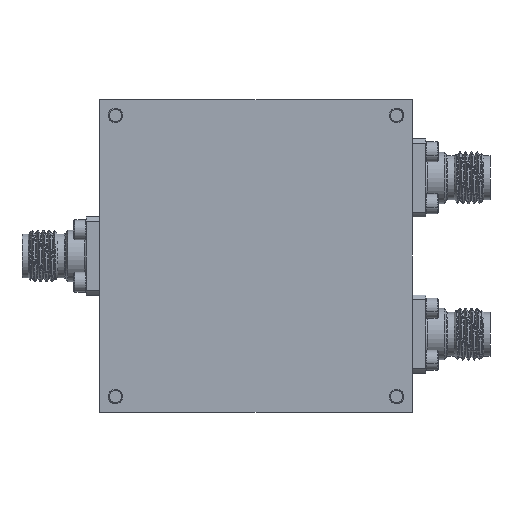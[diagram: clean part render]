
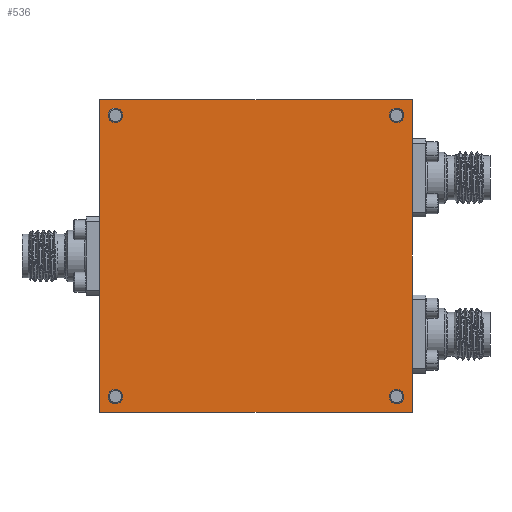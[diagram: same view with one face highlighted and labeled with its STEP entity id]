
A CAD part, front view. The second image highlights one B-rep face of the part: STEP entity #536.
In plain terms, the highlighted planar face has unit normal (0, -1, 0).
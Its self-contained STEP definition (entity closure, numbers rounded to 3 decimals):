
#47 = EDGE_CURVE ( 'NONE', #12756, #2568, #6468, .T. ) ;
#344 = EDGE_CURVE ( 'NONE', #2568, #12756, #10838, .T. ) ;
#358 = CARTESIAN_POINT ( 'NONE',  ( 19.05, 0., -19.05 ) ) ;
#390 = VERTEX_POINT ( 'NONE', #14724 ) ;
#391 = LINE ( 'NONE', #2453, #9827 ) ;
#536 = ADVANCED_FACE ( 'NONE', ( #10258, #934, #6812, #1154, #13777 ), #5825, .F. ) ;
#694 = AXIS2_PLACEMENT_3D ( 'NONE', #6336, #9712, #11027 ) ;
#717 = CARTESIAN_POINT ( 'NONE',  ( 19.05, 0., 19.05 ) ) ;
#934 = FACE_BOUND ( 'NONE', #9268, .T. ) ;
#1154 = FACE_BOUND ( 'NONE', #3808, .T. ) ;
#1209 = CARTESIAN_POINT ( 'NONE',  ( -17.145, 0., 18.034 ) ) ;
#1407 = DIRECTION ( 'NONE',  ( 0., 1., 0. ) ) ;
#1448 = EDGE_CURVE ( 'NONE', #8359, #5713, #13403, .T. ) ;
#1464 = ORIENTED_EDGE ( 'NONE', *, *, #13345, .T. ) ;
#1650 = AXIS2_PLACEMENT_3D ( 'NONE', #13196, #3635, #2548 ) ;
#2162 = AXIS2_PLACEMENT_3D ( 'NONE', #7415, #12244, #4048 ) ;
#2453 = CARTESIAN_POINT ( 'NONE',  ( -19.05, 0., -19.05 ) ) ;
#2515 = ORIENTED_EDGE ( 'NONE', *, *, #1448, .T. ) ;
#2548 = DIRECTION ( 'NONE',  ( 0., 0., 1. ) ) ;
#2568 = VERTEX_POINT ( 'NONE', #7526 ) ;
#2781 = CARTESIAN_POINT ( 'NONE',  ( 17.145, 0., 17.145 ) ) ;
#2790 = CARTESIAN_POINT ( 'NONE',  ( -19.05, 0., 19.05 ) ) ;
#2821 = EDGE_CURVE ( 'NONE', #390, #5893, #4507, .T. ) ;
#3166 = DIRECTION ( 'NONE',  ( 0., 0., 1. ) ) ;
#3213 = ORIENTED_EDGE ( 'NONE', *, *, #344, .T. ) ;
#3357 = CIRCLE ( 'NONE', #13144, 0.889 ) ;
#3359 = EDGE_LOOP ( 'NONE', ( #9839, #1464 ) ) ;
#3516 = DIRECTION ( 'NONE',  ( 0., 0., 1. ) ) ;
#3635 = DIRECTION ( 'NONE',  ( 0., 1., 0. ) ) ;
#3671 = CARTESIAN_POINT ( 'NONE',  ( 17.145, 0., 17.145 ) ) ;
#3808 = EDGE_LOOP ( 'NONE', ( #7892, #13492 ) ) ;
#4048 = DIRECTION ( 'NONE',  ( 0., 0., 1. ) ) ;
#4325 = VECTOR ( 'NONE', #5856, 1000. ) ;
#4394 = CARTESIAN_POINT ( 'NONE',  ( 19.05, 0., -19.05 ) ) ;
#4445 = EDGE_CURVE ( 'NONE', #12241, #6593, #5082, .T. ) ;
#4507 = CIRCLE ( 'NONE', #14298, 0.889 ) ;
#4718 = EDGE_CURVE ( 'NONE', #5893, #390, #14764, .T. ) ;
#4839 = AXIS2_PLACEMENT_3D ( 'NONE', #12708, #8046, #3516 ) ;
#4931 = DIRECTION ( 'NONE',  ( -1., 0., 0. ) ) ;
#5082 = LINE ( 'NONE', #12117, #9641 ) ;
#5256 = EDGE_CURVE ( 'NONE', #9285, #8266, #12139, .T. ) ;
#5332 = DIRECTION ( 'NONE',  ( 1., 0., 0. ) ) ;
#5587 = EDGE_LOOP ( 'NONE', ( #3213, #9158 ) ) ;
#5713 = VERTEX_POINT ( 'NONE', #9316 ) ;
#5825 = PLANE ( 'NONE',  #4839 ) ;
#5856 = DIRECTION ( 'NONE',  ( 0., 0., -1. ) ) ;
#5893 = VERTEX_POINT ( 'NONE', #1209 ) ;
#6055 = EDGE_LOOP ( 'NONE', ( #11538, #13927, #13952, #14375 ) ) ;
#6117 = VERTEX_POINT ( 'NONE', #11064 ) ;
#6336 = CARTESIAN_POINT ( 'NONE',  ( 17.145, 0., -17.145 ) ) ;
#6468 = CIRCLE ( 'NONE', #11127, 0.889 ) ;
#6593 = VERTEX_POINT ( 'NONE', #12185 ) ;
#6798 = EDGE_CURVE ( 'NONE', #5713, #8359, #3357, .T. ) ;
#6812 = FACE_BOUND ( 'NONE', #5587, .T. ) ;
#6994 = EDGE_CURVE ( 'NONE', #8266, #12241, #8153, .T. ) ;
#7130 = EDGE_CURVE ( 'NONE', #9244, #6117, #12650, .T. ) ;
#7175 = DIRECTION ( 'NONE',  ( 0., 1., 0. ) ) ;
#7290 = CARTESIAN_POINT ( 'NONE',  ( -17.145, 0., 17.145 ) ) ;
#7415 = CARTESIAN_POINT ( 'NONE',  ( -17.145, 0., -17.145 ) ) ;
#7526 = CARTESIAN_POINT ( 'NONE',  ( 17.145, 0., 18.034 ) ) ;
#7590 = DIRECTION ( 'NONE',  ( 0., 0., 1. ) ) ;
#7892 = ORIENTED_EDGE ( 'NONE', *, *, #4718, .T. ) ;
#8046 = DIRECTION ( 'NONE',  ( 0., 1., 0. ) ) ;
#8153 = LINE ( 'NONE', #4394, #4325 ) ;
#8189 = ORIENTED_EDGE ( 'NONE', *, *, #6798, .T. ) ;
#8266 = VERTEX_POINT ( 'NONE', #717 ) ;
#8359 = VERTEX_POINT ( 'NONE', #13032 ) ;
#8378 = VECTOR ( 'NONE', #5332, 1000. ) ;
#8758 = DIRECTION ( 'NONE',  ( 0., 1., 0. ) ) ;
#8995 = CARTESIAN_POINT ( 'NONE',  ( 17.145, 0., -17.145 ) ) ;
#9158 = ORIENTED_EDGE ( 'NONE', *, *, #47, .T. ) ;
#9172 = CARTESIAN_POINT ( 'NONE',  ( -17.145, 0., -16.256 ) ) ;
#9244 = VERTEX_POINT ( 'NONE', #9172 ) ;
#9268 = EDGE_LOOP ( 'NONE', ( #2515, #8189 ) ) ;
#9285 = VERTEX_POINT ( 'NONE', #13147 ) ;
#9316 = CARTESIAN_POINT ( 'NONE',  ( 17.145, 0., -18.034 ) ) ;
#9414 = CARTESIAN_POINT ( 'NONE',  ( 17.145, 0., 16.256 ) ) ;
#9641 = VECTOR ( 'NONE', #4931, 1000. ) ;
#9712 = DIRECTION ( 'NONE',  ( 0., 1., 0. ) ) ;
#9827 = VECTOR ( 'NONE', #11793, 1000. ) ;
#9839 = ORIENTED_EDGE ( 'NONE', *, *, #7130, .T. ) ;
#10061 = DIRECTION ( 'NONE',  ( 0., 1., 0. ) ) ;
#10258 = FACE_BOUND ( 'NONE', #3359, .T. ) ;
#10634 = AXIS2_PLACEMENT_3D ( 'NONE', #11060, #8758, #7590 ) ;
#10789 = DIRECTION ( 'NONE',  ( 0., 0., 1. ) ) ;
#10838 = CIRCLE ( 'NONE', #12286, 0.889 ) ;
#11027 = DIRECTION ( 'NONE',  ( 0., 0., 1. ) ) ;
#11060 = CARTESIAN_POINT ( 'NONE',  ( -17.145, 0., 17.145 ) ) ;
#11064 = CARTESIAN_POINT ( 'NONE',  ( -17.145, 0., -18.034 ) ) ;
#11127 = AXIS2_PLACEMENT_3D ( 'NONE', #3671, #7175, #10789 ) ;
#11178 = EDGE_CURVE ( 'NONE', #6593, #9285, #391, .T. ) ;
#11453 = CIRCLE ( 'NONE', #2162, 0.889 ) ;
#11538 = ORIENTED_EDGE ( 'NONE', *, *, #6994, .F. ) ;
#11793 = DIRECTION ( 'NONE',  ( 0., 0., 1. ) ) ;
#11969 = DIRECTION ( 'NONE',  ( 0., 0., 1. ) ) ;
#12117 = CARTESIAN_POINT ( 'NONE',  ( -19.05, 0., -19.05 ) ) ;
#12139 = LINE ( 'NONE', #2790, #8378 ) ;
#12185 = CARTESIAN_POINT ( 'NONE',  ( -19.05, 0., -19.05 ) ) ;
#12241 = VERTEX_POINT ( 'NONE', #358 ) ;
#12244 = DIRECTION ( 'NONE',  ( 0., 1., 0. ) ) ;
#12286 = AXIS2_PLACEMENT_3D ( 'NONE', #2781, #10061, #13359 ) ;
#12650 = CIRCLE ( 'NONE', #1650, 0.889 ) ;
#12708 = CARTESIAN_POINT ( 'NONE',  ( 0., 0., 0. ) ) ;
#12756 = VERTEX_POINT ( 'NONE', #9414 ) ;
#13032 = CARTESIAN_POINT ( 'NONE',  ( 17.145, 0., -16.256 ) ) ;
#13144 = AXIS2_PLACEMENT_3D ( 'NONE', #8995, #14503, #3166 ) ;
#13147 = CARTESIAN_POINT ( 'NONE',  ( -19.05, 0., 19.05 ) ) ;
#13196 = CARTESIAN_POINT ( 'NONE',  ( -17.145, 0., -17.145 ) ) ;
#13345 = EDGE_CURVE ( 'NONE', #6117, #9244, #11453, .T. ) ;
#13359 = DIRECTION ( 'NONE',  ( 0., 0., 1. ) ) ;
#13403 = CIRCLE ( 'NONE', #694, 0.889 ) ;
#13492 = ORIENTED_EDGE ( 'NONE', *, *, #2821, .T. ) ;
#13777 = FACE_OUTER_BOUND ( 'NONE', #6055, .T. ) ;
#13927 = ORIENTED_EDGE ( 'NONE', *, *, #5256, .F. ) ;
#13952 = ORIENTED_EDGE ( 'NONE', *, *, #11178, .F. ) ;
#14298 = AXIS2_PLACEMENT_3D ( 'NONE', #7290, #1407, #11969 ) ;
#14375 = ORIENTED_EDGE ( 'NONE', *, *, #4445, .F. ) ;
#14503 = DIRECTION ( 'NONE',  ( 0., 1., 0. ) ) ;
#14724 = CARTESIAN_POINT ( 'NONE',  ( -17.145, 0., 16.256 ) ) ;
#14764 = CIRCLE ( 'NONE', #10634, 0.889 ) ;
